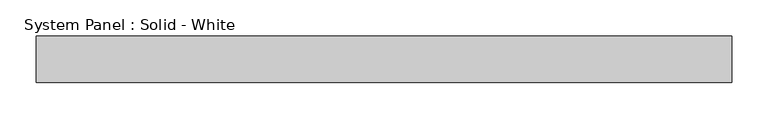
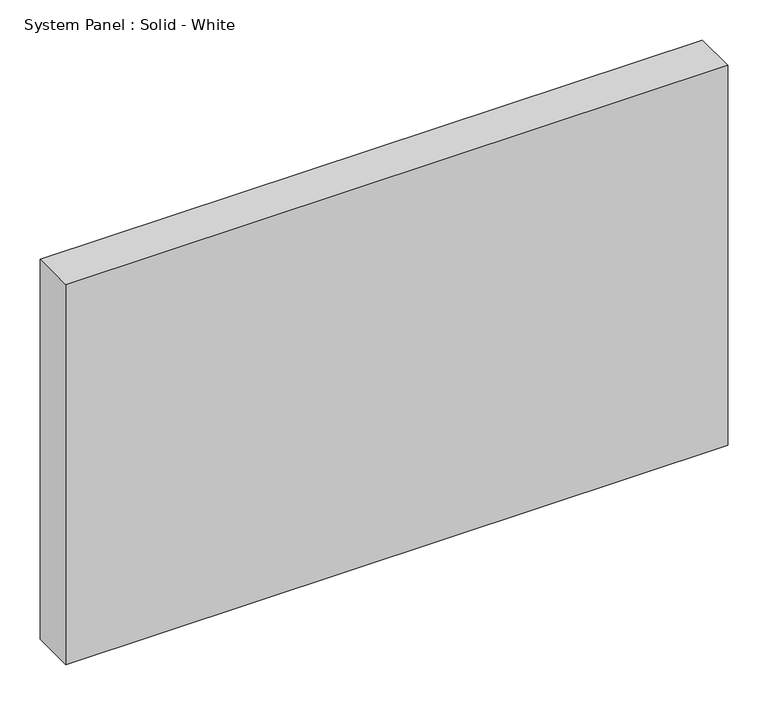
"""IFC4 building model written with IfcOpenShell, lengths in millimetres: plate geometry, System Panel : Solid - White."""

from ifc_helpers import new_model, si_unit, origin, origin_with_axes, place, context, project, spatial, polyline, outline, extrude, source, transform, mapped, element, save


def system_panel_solid_white_b87bf759(model_context):
    return source(origin(), model_context, "Body", "SweptSolid", [
        extrude(outline(polyline([(476.4651937, -19.05), (-476.4651937, -19.05), (-476.4651937, 44.45), (476.4651937, 44.45), (476.4651937, -19.05)])), origin_with_axes(), (0.0, 0.0, 1.0), 577.85),
    ])


if __name__ == "__main__":
    model = new_model("IFC4")
    model_context = context("Model", 3, world=origin())
    ifc_project = project(units=[si_unit("LENGTHUNIT", "METRE", prefix="MILLI")], contexts=[model_context])
    site = spatial("IfcSite", under=ifc_project)
    building = spatial("IfcBuilding", under=site)
    placement = place(None, origin())
    system_panel_solid_white_shape = system_panel_solid_white_b87bf759(model_context)
    element("IfcPlate", 1, ObjectType="System Panel : Solid - White", at=placement, inside=building, context=model_context, shape_type="MappedRepresentation", body=[
        mapped(system_panel_solid_white_shape, transform((0.0, 0.0, 0.0), x_axis=(1.0, 0.0, 0.0), y_axis=(0.0, 1.0, 0.0), z_axis=(0.0, 0.0, 1.0))),
    ])
    save(model, "model.ifc")
